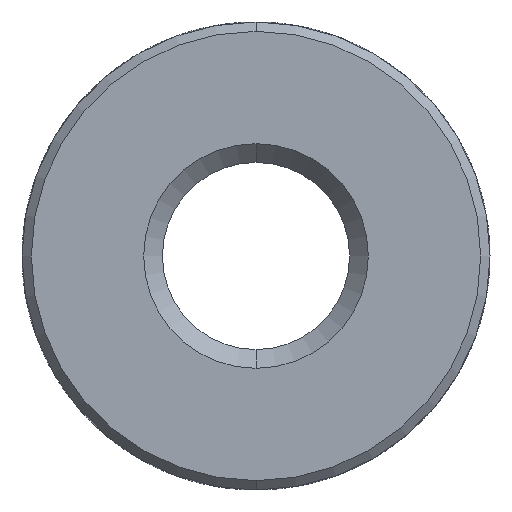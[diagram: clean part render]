
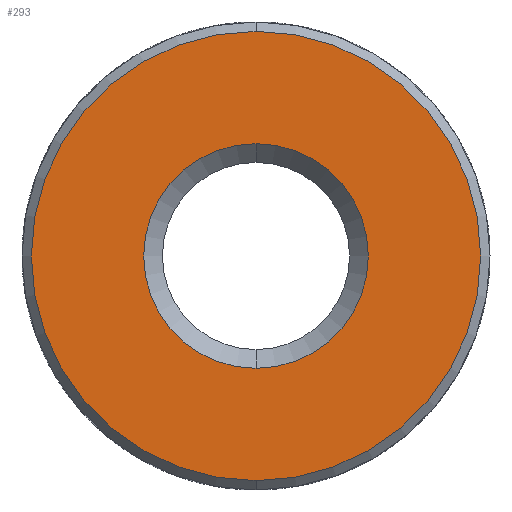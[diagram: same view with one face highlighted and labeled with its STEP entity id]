
A CAD part, front view. The second image highlights one B-rep face of the part: STEP entity #293.
In plain terms, the highlighted planar face has unit normal (0, -1, 0).
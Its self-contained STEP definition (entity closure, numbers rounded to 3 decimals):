
#40 = EDGE_CURVE ( 'NONE', #3784, #2456, #4244, .T. ) ;
#195 = DIRECTION ( 'NONE',  ( 0., 0., -1. ) ) ;
#293 = ADVANCED_FACE ( 'NONE', ( #1012, #4639 ), #985, .T. ) ;
#323 = AXIS2_PLACEMENT_3D ( 'NONE', #2619, #4770, #195 ) ;
#421 = ORIENTED_EDGE ( 'NONE', *, *, #2116, .T. ) ;
#494 = DIRECTION ( 'NONE',  ( 0., 0., -1. ) ) ;
#518 = DIRECTION ( 'NONE',  ( 0., 1., 0. ) ) ;
#523 = DIRECTION ( 'NONE',  ( 0., 0., -1. ) ) ;
#623 = CIRCLE ( 'NONE', #2738, 1.2 ) ;
#821 = AXIS2_PLACEMENT_3D ( 'NONE', #4197, #518, #494 ) ;
#888 = CARTESIAN_POINT ( 'NONE',  ( 0., -3.8, 0. ) ) ;
#985 = PLANE ( 'NONE',  #2278 ) ;
#1004 = ORIENTED_EDGE ( 'NONE', *, *, #2126, .T. ) ;
#1012 = FACE_OUTER_BOUND ( 'NONE', #2023, .T. ) ;
#1078 = CIRCLE ( 'NONE', #3756, 2.4 ) ;
#1445 = VERTEX_POINT ( 'NONE', #2305 ) ;
#2023 = EDGE_LOOP ( 'NONE', ( #421, #1004 ) ) ;
#2043 = EDGE_CURVE ( 'NONE', #2456, #3784, #623, .T. ) ;
#2116 = EDGE_CURVE ( 'NONE', #1445, #2436, #1078, .T. ) ;
#2126 = EDGE_CURVE ( 'NONE', #2436, #1445, #4120, .T. ) ;
#2158 = EDGE_LOOP ( 'NONE', ( #5160, #4511 ) ) ;
#2278 = AXIS2_PLACEMENT_3D ( 'NONE', #4676, #5071, #3838 ) ;
#2305 = CARTESIAN_POINT ( 'NONE',  ( 0., -3.8, 2.4 ) ) ;
#2436 = VERTEX_POINT ( 'NONE', #3869 ) ;
#2456 = VERTEX_POINT ( 'NONE', #2621 ) ;
#2517 = DIRECTION ( 'NONE',  ( 0., 0., -1. ) ) ;
#2595 = CARTESIAN_POINT ( 'NONE',  ( 0., -3.8, 0. ) ) ;
#2619 = CARTESIAN_POINT ( 'NONE',  ( 0., -3.8, 0. ) ) ;
#2621 = CARTESIAN_POINT ( 'NONE',  ( 0., -3.8, 1.2 ) ) ;
#2738 = AXIS2_PLACEMENT_3D ( 'NONE', #888, #2961, #523 ) ;
#2961 = DIRECTION ( 'NONE',  ( 0., 1., 0. ) ) ;
#3756 = AXIS2_PLACEMENT_3D ( 'NONE', #2595, #3849, #2517 ) ;
#3784 = VERTEX_POINT ( 'NONE', #4169 ) ;
#3838 = DIRECTION ( 'NONE',  ( 0., 0., -1. ) ) ;
#3849 = DIRECTION ( 'NONE',  ( 0., -1., 0. ) ) ;
#3869 = CARTESIAN_POINT ( 'NONE',  ( 0., -3.8, -2.4 ) ) ;
#4120 = CIRCLE ( 'NONE', #323, 2.4 ) ;
#4169 = CARTESIAN_POINT ( 'NONE',  ( 0., -3.8, -1.2 ) ) ;
#4197 = CARTESIAN_POINT ( 'NONE',  ( 0., -3.8, 0. ) ) ;
#4244 = CIRCLE ( 'NONE', #821, 1.2 ) ;
#4511 = ORIENTED_EDGE ( 'NONE', *, *, #2043, .T. ) ;
#4639 = FACE_BOUND ( 'NONE', #2158, .T. ) ;
#4676 = CARTESIAN_POINT ( 'NONE',  ( 0., -3.8, 2.5 ) ) ;
#4770 = DIRECTION ( 'NONE',  ( 0., -1., 0. ) ) ;
#5071 = DIRECTION ( 'NONE',  ( 0., -1., 0. ) ) ;
#5160 = ORIENTED_EDGE ( 'NONE', *, *, #40, .T. ) ;
